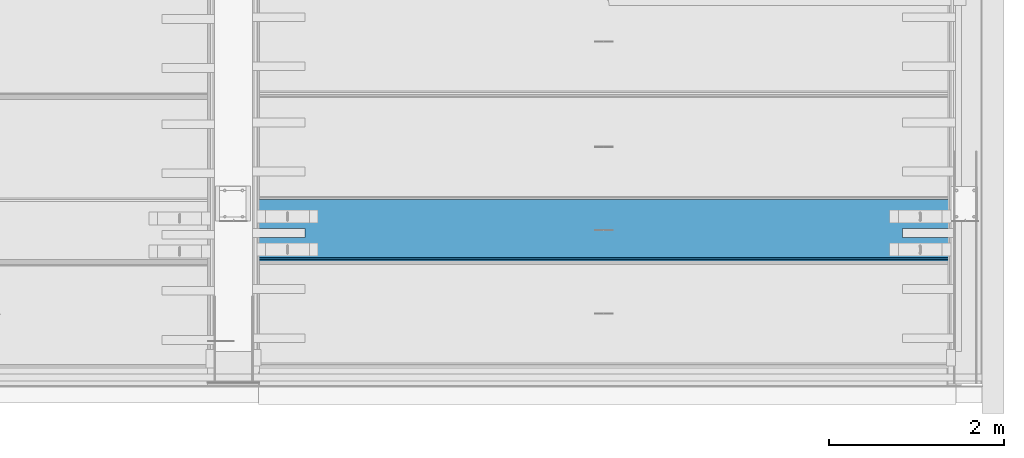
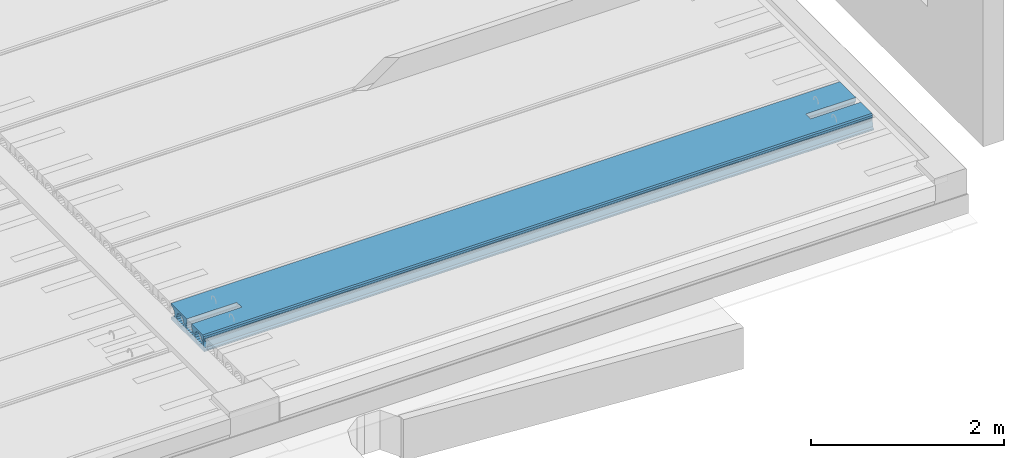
# One storey, part 86 of 230: 1 beam.
"""IFC4X3_ADD2 building model written with IfcOpenShell, lengths in millimetres."""

from ifc_helpers import new_model, si_unit, direction, origin_with_axes, place, context, subcontext, project, spatial, polygons, element, save


model = new_model("IFC4X3_ADD2")

# Units and contexts
model_context = context("Model", 3, precision=1e-05, world=origin_with_axes(), true_north=direction((0.0, 1.0)))
body_context = subcontext(model_context, "Body", "Model", "MODEL_VIEW")
ifc_project = project(units=[si_unit("LENGTHUNIT", "METRE", prefix="MILLI"), si_unit("AREAUNIT", "SQUARE_METRE"), si_unit("VOLUMEUNIT", "CUBIC_METRE"), si_unit("PLANEANGLEUNIT", "RADIAN"), si_unit("TIMEUNIT", "SECOND"), si_unit("MASSUNIT", "GRAM")], contexts=[model_context])

# Site, building, storey
site_placement = place(None, origin_with_axes())
site = spatial("IfcSite", under=ifc_project, at=site_placement, Name="Site", CompositionType="ELEMENT")
building_placement = place(site_placement, origin_with_axes())
building = spatial("IfcBuilding", under=site, at=building_placement, Name="IFC Building Story")
storey_placement = place(building_placement, origin_with_axes())
storey = spatial("IfcBuildingStorey", under=building, at=storey_placement, Name="ETAGE 00 (0)", Elevation=0.0)

# Beam
beam_placement = place(storey_placement, origin_with_axes())
element("IfcBeam", 1, at=beam_placement, inside=storey, Name="HOLLOWCORE SLAB", ObjectType="EB_SP200", context=body_context, shape_type="Tessellation", body=[
    polygons([(40181.189, -13029.0, 3999.9999909), (40181.189, -13040.0, 4012.9999909), (40181.189, -13040.0, 4029.9999909), (40181.189, -13020.0, 4044.9999909), (40181.189, -13018.54998779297, 4119.9999909), (40181.189, -13011.01737852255, 4128.676139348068), (40181.189, -13008.16006998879, 4139.805000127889), (40181.189, -13010.58136358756, 4151.036789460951), (40181.189, -13017.77001953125, 4159.9999909), (40181.189, -13017.28870383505, 4185.002769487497), (40181.189, -13002.0, 4199.9999909), (40181.189, -12770.0, 4199.9999909), (40181.189, -12770.0, 4155.806158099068), (40181.189, -12774.6794551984, 4152.679446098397), (40181.189, -12790.82902517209, 4128.509906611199), (40181.189, -12796.5, 4099.9999909), (40181.189, -12790.82902517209, 4071.490075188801), (40181.189, -12774.6794551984, 4047.320535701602), (40181.189, -12750.5099157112, 4031.170965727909), (40181.189, -12722.0, 4025.4999909), (40181.189, -12693.4900842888, 4031.170965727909), (40181.189, -12669.3205448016, 4047.320535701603), (40181.189, -12653.17097482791, 4071.490075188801), (40181.189, -12647.5, 4099.9999909), (40181.189, -12653.17097482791, 4128.509906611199), (40181.189, -12669.3205448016, 4152.679446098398), (40181.189, -12670.0, 4153.133443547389), (40181.189, -12670.0, 4199.9999909), (40181.189, -12340.0000185, 4199.9999909), (40181.189, -12340.0000185, 4173.306520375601), (40181.189, -12346.0, 4174.4999909), (40181.189, -12374.5099157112, 4168.829016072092), (40181.189, -12398.6794551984, 4152.679446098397), (40181.189, -12414.82902517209, 4128.509906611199), (40181.189, -12420.5, 4099.9999909), (40181.189, -12414.82902517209, 4071.490075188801), (40181.189, -12398.6794551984, 4047.320535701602), (40181.189, -12374.5099157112, 4031.170965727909), (40181.189, -12346.0, 4025.4999909), (40181.189, -12340.0000185, 4026.693461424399), (40181.189, -12340.0000185, 3999.9999909), (40181.189, -12481.3205448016, 4152.679446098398), (40181.189, -12505.4900842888, 4168.829016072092), (40181.189, -12534.0, 4174.4999909), (40181.189, -12562.5099157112, 4168.829016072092), (40181.189, -12586.6794551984, 4152.679446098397), (40181.189, -12602.82902517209, 4128.509906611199), (40181.189, -12608.5, 4099.9999909), (40181.189, -12602.82902517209, 4071.490075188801), (40181.189, -12586.6794551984, 4047.320535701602), (40181.189, -12562.5099157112, 4031.170965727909), (40181.189, -12534.0, 4025.4999909), (40181.189, -12505.4900842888, 4031.170965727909), (40181.189, -12481.3205448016, 4047.320535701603), (40181.189, -12465.17097482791, 4071.490075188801), (40181.189, -12459.5, 4099.9999909), (40181.189, -12465.17097482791, 4128.509906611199), (40181.189, -12857.3205448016, 4152.679446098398), (40181.189, -12881.4900842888, 4168.829016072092), (40181.189, -12910.0, 4174.4999909), (40181.189, -12938.5099157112, 4168.829016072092), (40181.189, -12962.6794551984, 4152.679446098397), (40181.189, -12978.82902517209, 4128.509906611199), (40181.189, -12984.5, 4099.9999909), (40181.189, -12978.82902517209, 4071.490075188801), (40181.189, -12962.6794551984, 4047.320535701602), (40181.189, -12938.5099157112, 4031.170965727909), (40181.189, -12910.0, 4025.4999909), (40181.189, -12881.4900842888, 4031.170965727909), (40181.189, -12857.3205448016, 4047.320535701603), (40181.189, -12841.17097482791, 4071.490075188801), (40181.189, -12835.5, 4099.9999909), (40181.189, -12841.17097482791, 4128.509906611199), (48196.18900000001, -12670.0, 4199.9999909), (48196.18900000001, -12670.0, 4153.133443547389), (48196.18900000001, -12669.3205448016, 4152.679446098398), (48196.18900000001, -12653.17097482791, 4128.509906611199), (48196.18900000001, -12647.5, 4099.9999909), (48196.18900000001, -12653.17097482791, 4071.490075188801), (48196.18900000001, -12669.3205448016, 4047.320535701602), (48196.18900000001, -12693.4900842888, 4031.170965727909), (48196.18900000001, -12722.0, 4025.4999909), (48196.18900000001, -12750.5099157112, 4031.170965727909), (48196.18900000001, -12774.6794551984, 4047.320535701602), (48196.18900000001, -12790.82902517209, 4071.490075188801), (48196.18900000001, -12796.5, 4099.9999909), (48196.18900000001, -12790.82902517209, 4128.509906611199), (48196.18900000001, -12774.6794551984, 4152.679446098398), (48196.18900000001, -12770.0, 4155.806158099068), (48196.18900000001, -12770.0, 4199.9999909), (48196.18900000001, -13002.0, 4199.9999909), (48196.18900000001, -13017.28870383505, 4185.002769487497), (48196.18900000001, -13017.77001953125, 4159.9999909), (48196.18900000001, -13010.58136358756, 4151.036789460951), (48196.18900000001, -13008.16006998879, 4139.805000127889), (48196.18900000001, -13011.01737852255, 4128.676139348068), (48196.18900000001, -13018.54998779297, 4119.9999909), (48196.18900000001, -13020.0, 4044.9999909), (48196.18900000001, -13040.0, 4029.9999909), (48196.18900000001, -13040.0, 4012.9999909), (48196.18900000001, -13029.0, 3999.9999909), (48196.18900000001, -12340.0000185, 3999.9999909), (48196.18900000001, -12340.0000185, 4026.693461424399), (48196.18900000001, -12346.0, 4025.4999909), (48196.18900000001, -12374.5099157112, 4031.170965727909), (48196.18900000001, -12398.6794551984, 4047.320535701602), (48196.18900000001, -12414.82902517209, 4071.490075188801), (48196.18900000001, -12420.5, 4099.9999909), (48196.18900000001, -12414.82902517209, 4128.509906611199), (48196.18900000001, -12398.6794551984, 4152.679446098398), (48196.18900000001, -12374.5099157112, 4168.829016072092), (48196.18900000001, -12346.0, 4174.4999909), (48196.18900000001, -12340.0000185, 4173.306520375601), (48196.18900000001, -12340.0000185, 4199.9999909), (48196.18900000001, -12481.3205448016, 4152.679446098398), (48196.18900000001, -12465.17097482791, 4128.509906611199), (48196.18900000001, -12459.5, 4099.9999909), (48196.18900000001, -12465.17097482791, 4071.490075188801), (48196.18900000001, -12481.3205448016, 4047.320535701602), (48196.18900000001, -12505.4900842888, 4031.170965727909), (48196.18900000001, -12534.0, 4025.4999909), (48196.18900000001, -12562.5099157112, 4031.170965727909), (48196.18900000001, -12586.6794551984, 4047.320535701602), (48196.18900000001, -12602.82902517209, 4071.490075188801), (48196.18900000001, -12608.5, 4099.9999909), (48196.18900000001, -12602.82902517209, 4128.509906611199), (48196.18900000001, -12586.6794551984, 4152.679446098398), (48196.18900000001, -12562.5099157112, 4168.829016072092), (48196.18900000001, -12534.0, 4174.4999909), (48196.18900000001, -12505.4900842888, 4168.829016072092), (48196.18900000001, -12857.3205448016, 4152.679446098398), (48196.18900000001, -12841.17097482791, 4128.509906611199), (48196.18900000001, -12835.5, 4099.9999909), (48196.18900000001, -12841.17097482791, 4071.490075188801), (48196.18900000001, -12857.3205448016, 4047.320535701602), (48196.18900000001, -12881.4900842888, 4031.170965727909), (48196.18900000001, -12910.0, 4025.4999909), (48196.18900000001, -12938.5099157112, 4031.170965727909), (48196.18900000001, -12962.6794551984, 4047.320535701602), (48196.18900000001, -12978.82902517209, 4071.490075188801), (48196.18900000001, -12984.5, 4099.9999909), (48196.18900000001, -12978.82902517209, 4128.509906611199), (48196.18900000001, -12962.6794551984, 4152.679446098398), (48196.18900000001, -12938.5099157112, 4168.829016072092), (48196.18900000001, -12910.0, 4174.4999909), (48196.18900000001, -12881.4900842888, 4168.829016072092), (47596.18900000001, -12770.0, 4199.9999909), (47596.18900000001, -12670.0, 4199.9999909), (40781.189, -12670.0, 4199.9999909), (40781.189, -12770.0, 4199.9999909), (47596.18900000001, -12670.0, 4153.133443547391), (47596.18900000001, -12693.4900842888, 4168.829016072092), (40781.189, -12693.4900842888, 4168.829016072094), (40781.189, -12670.0, 4153.13344354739), (47596.18900000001, -12722.0, 4174.4999909), (40781.189, -12722.0, 4174.4999909), (47596.18900000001, -12750.5099157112, 4168.829016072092), (40781.189, -12750.5099157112, 4168.829016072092), (40781.189, -12770.0, 4155.806158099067), (47596.18900000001, -12770.0, 4155.806158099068), (47596.18900000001, -12670.0, 4199.999996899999), (47596.18900000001, -12770.0, 4199.999996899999), (40781.189, -12770.0, 4199.999996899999), (40781.189, -12670.0, 4199.999996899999)], [[[26, 27, 28]], [[45, 46, 25]], [[45, 25, 26]], [[45, 26, 28]], [[28, 44, 45]], [[44, 28, 29]], [[29, 43, 44]], [[29, 42, 43]], [[47, 48, 24]], [[47, 24, 25]], [[25, 46, 47]], [[49, 50, 23]], [[23, 24, 48]], [[23, 48, 49]], [[50, 22, 23]], [[32, 33, 57]], [[32, 57, 42]], [[32, 42, 29]], [[29, 31, 32]], [[29, 30, 31]], [[34, 35, 56]], [[34, 56, 57]], [[57, 33, 34]], [[36, 37, 55]], [[55, 56, 35]], [[55, 35, 36]], [[39, 40, 41]], [[41, 38, 39]], [[41, 54, 55]], [[41, 55, 37]], [[41, 37, 38]], [[41, 53, 54]], [[41, 52, 53]], [[41, 21, 52]], [[21, 51, 52]], [[21, 22, 50]], [[21, 50, 51]], [[41, 20, 21]], [[41, 1, 20]], [[1, 19, 20]], [[1, 18, 19]], [[8, 9, 10]], [[8, 10, 11]], [[62, 63, 7]], [[62, 7, 8]], [[8, 11, 61]], [[8, 61, 62]], [[11, 60, 61]], [[60, 11, 12]], [[12, 59, 60]], [[12, 58, 59]], [[63, 6, 7]], [[65, 66, 4]], [[4, 5, 64]], [[4, 64, 65]], [[5, 6, 63]], [[5, 63, 64]], [[69, 70, 17]], [[69, 17, 18]], [[18, 68, 69]], [[18, 1, 68]], [[1, 67, 68]], [[1, 4, 66]], [[1, 66, 67]], [[1, 2, 3]], [[1, 3, 4]], [[71, 72, 16]], [[71, 16, 17]], [[17, 70, 71]], [[73, 58, 15]], [[15, 16, 72]], [[15, 72, 73]], [[58, 12, 14]], [[58, 14, 15]], [[12, 13, 14]], [[98, 99, 100]], [[98, 100, 101]], [[112, 113, 114]], [[114, 111, 112]], [[114, 110, 111]], [[110, 114, 115]], [[115, 109, 110]], [[116, 117, 108]], [[116, 108, 109]], [[109, 115, 116]], [[117, 118, 107]], [[117, 107, 108]], [[118, 106, 107]], [[130, 115, 114]], [[114, 129, 130]], [[114, 74, 129]], [[74, 128, 129]], [[74, 127, 128]], [[74, 75, 126]], [[74, 126, 127]], [[77, 78, 125]], [[77, 125, 126]], [[126, 76, 77]], [[126, 75, 76]], [[79, 80, 124]], [[124, 125, 78]], [[124, 78, 79]], [[80, 123, 124]], [[88, 89, 90]], [[90, 131, 87]], [[90, 87, 88]], [[132, 133, 86]], [[132, 86, 87]], [[87, 131, 132]], [[134, 135, 85]], [[85, 86, 133]], [[85, 133, 134]], [[141, 142, 96]], [[141, 96, 97]], [[97, 98, 140]], [[97, 140, 141]], [[98, 101, 139]], [[98, 139, 140]], [[101, 138, 139]], [[101, 137, 138]], [[101, 136, 137]], [[101, 84, 136]], [[84, 85, 135]], [[84, 135, 136]], [[101, 83, 84]], [[101, 82, 83]], [[101, 122, 82]], [[122, 81, 82]], [[122, 123, 80]], [[122, 80, 81]], [[101, 121, 122]], [[101, 102, 121]], [[102, 120, 121]], [[102, 119, 120]], [[102, 106, 118]], [[102, 118, 119]], [[102, 105, 106]], [[102, 104, 105]], [[102, 103, 104]], [[142, 95, 96]], [[146, 131, 90]], [[90, 145, 146]], [[90, 91, 145]], [[91, 144, 145]], [[91, 94, 143]], [[91, 143, 144]], [[94, 95, 142]], [[94, 142, 143]], [[91, 92, 93]], [[91, 93, 94]], [[101, 1, 41, 102]], [[2, 1, 101, 100]], [[3, 2, 100, 99]], [[4, 3, 99, 98]], [[5, 4, 98, 97]], [[6, 5, 97, 96]], [[7, 6, 96, 95]], [[8, 7, 95, 94]], [[9, 8, 94, 93]], [[10, 9, 93, 92]], [[11, 10, 92, 91]], [[148, 74, 114]], [[148, 114, 29]], [[29, 147, 148]], [[150, 12, 11]], [[150, 11, 91]], [[91, 149, 150]], [[91, 147, 29]], [[91, 29, 149]], [[29, 28, 149]], [[91, 90, 147]], [[112, 31, 30, 113]], [[32, 31, 112, 111]], [[33, 32, 111, 110]], [[34, 33, 110, 109]], [[35, 34, 109, 108]], [[36, 35, 108, 107]], [[37, 36, 107, 106]], [[38, 37, 106, 105]], [[39, 38, 105, 104]], [[39, 104, 103, 40]], [[43, 42, 115, 130]], [[44, 43, 130, 129]], [[45, 44, 129, 128]], [[46, 45, 128, 127]], [[47, 46, 127, 126]], [[48, 47, 126, 125]], [[49, 48, 125, 124]], [[50, 49, 124, 123]], [[51, 50, 123, 122]], [[52, 51, 122, 121]], [[53, 52, 121, 120]], [[54, 53, 120, 119]], [[55, 54, 119, 118]], [[56, 55, 118, 117]], [[57, 56, 117, 116]], [[42, 57, 116, 115]], [[154, 27, 26]], [[154, 26, 151]], [[151, 152, 153]], [[151, 153, 154]], [[26, 76, 151]], [[76, 75, 151]], [[153, 152, 155, 156]], [[156, 155, 157, 158]], [[160, 89, 88]], [[160, 88, 159]], [[159, 158, 157]], [[159, 157, 160]], [[88, 14, 159]], [[14, 13, 159]], [[15, 14, 88, 87]], [[16, 15, 87, 86]], [[17, 16, 86, 85]], [[18, 17, 85, 84]], [[19, 18, 84, 83]], [[20, 19, 83, 82]], [[21, 20, 82, 81]], [[22, 21, 81, 80]], [[23, 22, 80, 79]], [[24, 23, 79, 78]], [[25, 24, 78, 77]], [[26, 25, 77, 76]], [[59, 58, 131, 146]], [[60, 59, 146, 145]], [[61, 60, 145, 144]], [[62, 61, 144, 143]], [[63, 62, 143, 142]], [[64, 63, 142, 141]], [[65, 64, 141, 140]], [[66, 65, 140, 139]], [[67, 66, 139, 138]], [[68, 67, 138, 137]], [[69, 68, 137, 136]], [[70, 69, 136, 135]], [[71, 70, 135, 134]], [[72, 71, 134, 133]], [[73, 72, 133, 132]], [[58, 73, 132, 131]], [[90, 89, 160, 147]], [[75, 74, 161, 151]], [[152, 151, 148]], [[148, 162, 155]], [[148, 155, 152]], [[162, 157, 155]], [[162, 160, 157]], [[28, 27, 154, 149]], [[13, 12, 163, 159]], [[158, 159, 150]], [[150, 156, 158]], [[150, 164, 153]], [[150, 153, 156]], [[164, 154, 153]], [[30, 29, 114, 113]], [[41, 40, 103, 102]]]),
])

save(model, "model.ifc")
